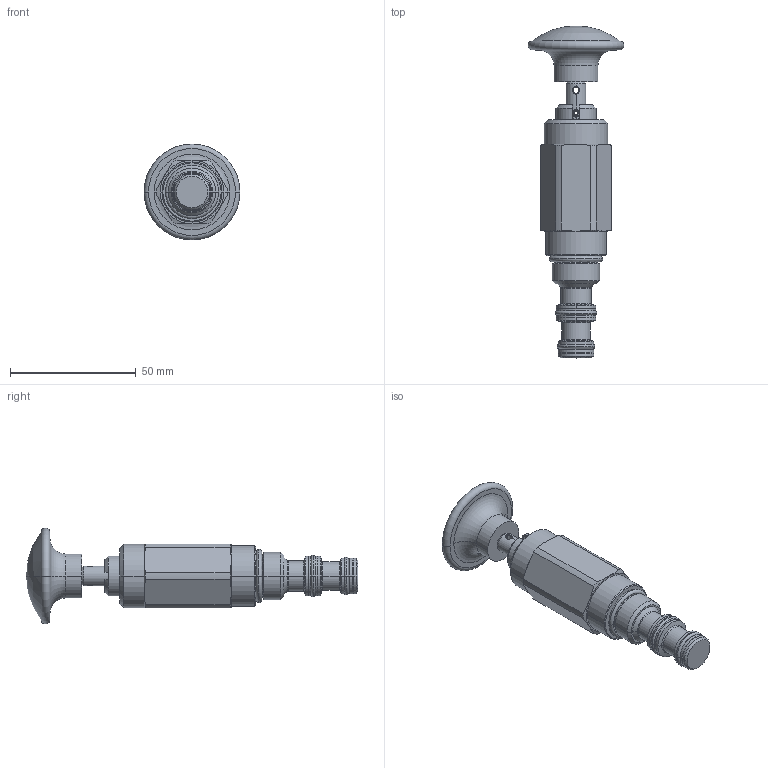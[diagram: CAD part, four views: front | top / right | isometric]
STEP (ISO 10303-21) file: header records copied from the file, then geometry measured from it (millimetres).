
FILE_DESCRIPTION((''),'2;1');
FILE_NAME('5270300_SW0003','2009-02-04T',('jcs'),(''),'PRO/ENGINEER BY PARAMETRIC TECHNOLOGY CORPORATION, 2008010','PRO/ENGINEER BY PARAMETRIC TECHNOLOGY CORPORATION, 2008010','');
FILE_SCHEMA(('CONFIG_CONTROL_DESIGN'));
Length unit declared in the file: inch
Products named in the file (1): 5270300_SW0003
Bounding box: 38.1 x 131.88 x 38.1 mm (x, y, z)
Volume: 47313.1 mm3; surface area: 13201 mm2
Topology: 4 solids, 5 shells, 204 faces, 471 edges, 281 vertices
Faces by surface type: cylinder 60, plane 47, cone 45, torus 26, revolution 24, sphere 2
Entity records: 6653 total; most frequent: CARTESIAN_POINT 1946, DIRECTION 1023, ORIENTED_EDGE 938, EDGE_CURVE 469, AXIS2_PLACEMENT_3D 428, VERTEX_POINT 281, CIRCLE 248, EDGE_LOOP 222
